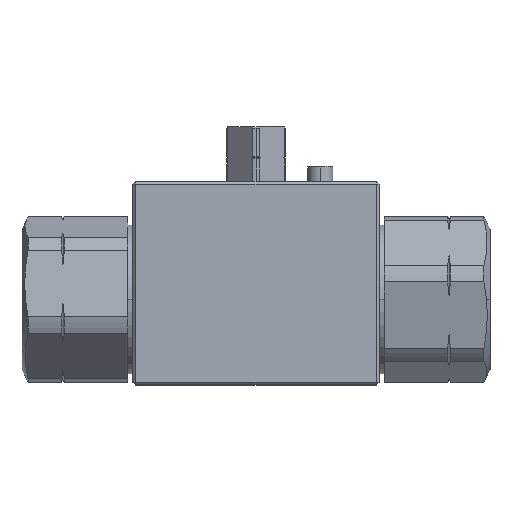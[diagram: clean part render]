
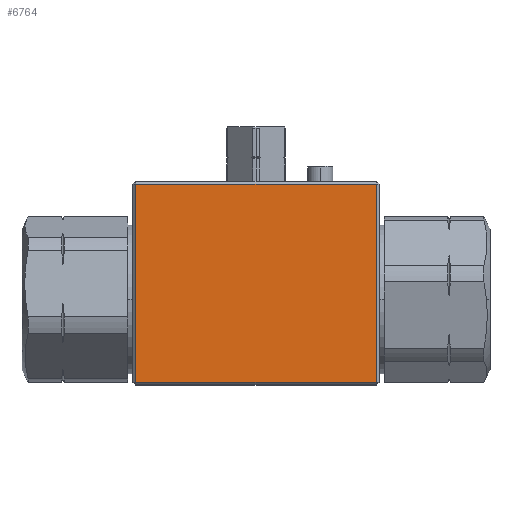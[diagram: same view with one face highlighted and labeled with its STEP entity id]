
A CAD part, top view. The second image highlights one B-rep face of the part: STEP entity #6764.
In plain terms, the highlighted planar face has unit normal (0, 0, 1).
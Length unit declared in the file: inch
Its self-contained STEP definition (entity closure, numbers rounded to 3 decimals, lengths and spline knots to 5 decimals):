
#505 = VECTOR ( 'NONE', #11821, 39.37008 ) ;
#890 = DIRECTION ( 'NONE',  ( 1., 0., 0. ) ) ;
#1142 = CARTESIAN_POINT ( 'NONE',  ( 0., 0., 0.6935 ) ) ;
#1481 = VECTOR ( 'NONE', #890, 39.37008 ) ;
#1725 = DIRECTION ( 'NONE',  ( 0., -1., 0. ) ) ;
#2375 = EDGE_CURVE ( 'NONE', #7080, #10222, #7457, .T. ) ;
#3190 = CARTESIAN_POINT ( 'NONE',  ( 0.933, 0.8935, 0.6935 ) ) ;
#3391 = CARTESIAN_POINT ( 'NONE',  ( 0.933, 0., 0.6935 ) ) ;
#3819 = EDGE_LOOP ( 'NONE', ( #12208, #11487, #14499, #9386 ) ) ;
#4288 = LINE ( 'NONE', #6350, #1481 ) ;
#4336 = CARTESIAN_POINT ( 'NONE',  ( 0.933, -0.6415, 0.6935 ) ) ;
#4835 = DIRECTION ( 'NONE',  ( 1., 0., 0. ) ) ;
#4898 = LINE ( 'NONE', #7238, #5956 ) ;
#5206 = EDGE_CURVE ( 'NONE', #10554, #10496, #15137, .T. ) ;
#5853 = DIRECTION ( 'NONE',  ( 0., 0., 1. ) ) ;
#5956 = VECTOR ( 'NONE', #6001, 39.37008 ) ;
#6001 = DIRECTION ( 'NONE',  ( -1., 0., 0. ) ) ;
#6350 = CARTESIAN_POINT ( 'NONE',  ( 0., -0.6415, 0.6935 ) ) ;
#6764 = ADVANCED_FACE ( 'NONE', ( #11749 ), #10892, .T. ) ;
#7080 = VERTEX_POINT ( 'NONE', #14097 ) ;
#7238 = CARTESIAN_POINT ( 'NONE',  ( 0., 0.8935, 0.6935 ) ) ;
#7457 = LINE ( 'NONE', #13635, #9869 ) ;
#8153 = CARTESIAN_POINT ( 'NONE',  ( -0.933, -0.6415, 0.6935 ) ) ;
#9386 = ORIENTED_EDGE ( 'NONE', *, *, #2375, .T. ) ;
#9869 = VECTOR ( 'NONE', #1725, 39.37008 ) ;
#9894 = EDGE_CURVE ( 'NONE', #10222, #10554, #4288, .T. ) ;
#10222 = VERTEX_POINT ( 'NONE', #8153 ) ;
#10496 = VERTEX_POINT ( 'NONE', #3190 ) ;
#10554 = VERTEX_POINT ( 'NONE', #4336 ) ;
#10892 = PLANE ( 'NONE',  #14193 ) ;
#11487 = ORIENTED_EDGE ( 'NONE', *, *, #5206, .T. ) ;
#11749 = FACE_OUTER_BOUND ( 'NONE', #3819, .T. ) ;
#11821 = DIRECTION ( 'NONE',  ( 0., 1., 0. ) ) ;
#12208 = ORIENTED_EDGE ( 'NONE', *, *, #9894, .T. ) ;
#12342 = EDGE_CURVE ( 'NONE', #10496, #7080, #4898, .T. ) ;
#13635 = CARTESIAN_POINT ( 'NONE',  ( -0.933, 0., 0.6935 ) ) ;
#14097 = CARTESIAN_POINT ( 'NONE',  ( -0.933, 0.8935, 0.6935 ) ) ;
#14193 = AXIS2_PLACEMENT_3D ( 'NONE', #1142, #5853, #4835 ) ;
#14499 = ORIENTED_EDGE ( 'NONE', *, *, #12342, .T. ) ;
#15137 = LINE ( 'NONE', #3391, #505 ) ;
